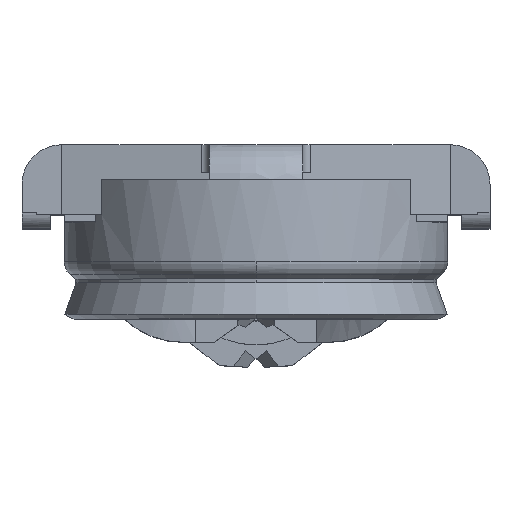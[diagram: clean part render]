
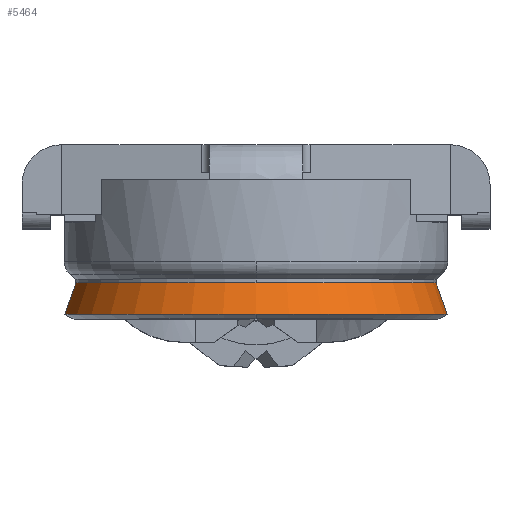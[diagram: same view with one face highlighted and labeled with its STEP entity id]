
A CAD part, top view. The second image highlights one B-rep face of the part: STEP entity #5464.
In plain terms, the highlighted conical face has half-angle 19.574 degrees and reference radius 0.77 mm.
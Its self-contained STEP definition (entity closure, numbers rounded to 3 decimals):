
#60 = VERTEX_POINT ( 'NONE', #4636 ) ;
#178 = DIRECTION ( 'NONE',  ( 0., 1., 0. ) ) ;
#679 = AXIS2_PLACEMENT_3D ( 'NONE', #6384, #178, #7434 ) ;
#731 = EDGE_CURVE ( 'NONE', #2074, #9748, #10896, .T. ) ;
#1073 = VECTOR ( 'NONE', #3360, 1000. ) ;
#1281 = DIRECTION ( 'NONE',  ( 0., -1., 0. ) ) ;
#1466 = CARTESIAN_POINT ( 'NONE',  ( 0., 0.36, 0.77 ) ) ;
#1475 = DIRECTION ( 'NONE',  ( 0.012, 0.942, 0.335 ) ) ;
#1708 = ORIENTED_EDGE ( 'NONE', *, *, #10105, .F. ) ;
#2074 = VERTEX_POINT ( 'NONE', #9650 ) ;
#2227 = EDGE_CURVE ( 'NONE', #12370, #7561, #9184, .T. ) ;
#2341 = CARTESIAN_POINT ( 'NONE',  ( 0., 0.36, 0. ) ) ;
#2976 = ORIENTED_EDGE ( 'NONE', *, *, #11398, .F. ) ;
#3360 = DIRECTION ( 'NONE',  ( 0.012, -0.942, -0.335 ) ) ;
#3582 = DIRECTION ( 'NONE',  ( 0., 1., 0. ) ) ;
#4174 = LINE ( 'NONE', #4425, #1073 ) ;
#4368 = DIRECTION ( 'NONE',  ( 0., 0., -1. ) ) ;
#4425 = CARTESIAN_POINT ( 'NONE',  ( 0., 2.526, 0. ) ) ;
#4598 = VERTEX_POINT ( 'NONE', #1466 ) ;
#4636 = CARTESIAN_POINT ( 'NONE',  ( 0.028, 0.36, -0.77 ) ) ;
#4722 = CARTESIAN_POINT ( 'NONE',  ( -0.028, 0.36, -0.77 ) ) ;
#4739 = ORIENTED_EDGE ( 'NONE', *, *, #9660, .F. ) ;
#4882 = DIRECTION ( 'NONE',  ( 0., 1., 0. ) ) ;
#5236 = AXIS2_PLACEMENT_3D ( 'NONE', #2341, #1281, #4368 ) ;
#5464 = ADVANCED_FACE ( 'NONE', ( #10086 ), #12578, .T. ) ;
#5470 = ORIENTED_EDGE ( 'NONE', *, *, #731, .T. ) ;
#5557 = CARTESIAN_POINT ( 'NONE',  ( 0.029, 0.225, -0.817 ) ) ;
#6063 = EDGE_LOOP ( 'NONE', ( #10677, #11711, #5470, #2976, #1708, #4739 ) ) ;
#6384 = CARTESIAN_POINT ( 'NONE',  ( 0., 0.36, 0. ) ) ;
#6393 = VECTOR ( 'NONE', #1475, 1000. ) ;
#6680 = AXIS2_PLACEMENT_3D ( 'NONE', #11138, #4882, #12225 ) ;
#6936 = DIRECTION ( 'NONE',  ( 0., 1., 0. ) ) ;
#7434 = DIRECTION ( 'NONE',  ( 0., 0., 1. ) ) ;
#7561 = VERTEX_POINT ( 'NONE', #4722 ) ;
#8939 = CIRCLE ( 'NONE', #679, 0.77 ) ;
#9184 = LINE ( 'NONE', #9711, #6393 ) ;
#9352 = EDGE_CURVE ( 'NONE', #12370, #2074, #11922, .T. ) ;
#9365 = CARTESIAN_POINT ( 'NONE',  ( -0.029, 0.225, -0.817 ) ) ;
#9402 = DIRECTION ( 'NONE',  ( 0., 0., 1. ) ) ;
#9650 = CARTESIAN_POINT ( 'NONE',  ( 0., 0.225, 0.818 ) ) ;
#9660 = EDGE_CURVE ( 'NONE', #7561, #4598, #8939, .T. ) ;
#9688 = AXIS2_PLACEMENT_3D ( 'NONE', #10800, #6936, #9402 ) ;
#9711 = CARTESIAN_POINT ( 'NONE',  ( 0., 2.526, 0. ) ) ;
#9748 = VERTEX_POINT ( 'NONE', #5557 ) ;
#9843 = CARTESIAN_POINT ( 'NONE',  ( 0., 0.225, 0. ) ) ;
#10086 = FACE_OUTER_BOUND ( 'NONE', #6063, .T. ) ;
#10105 = EDGE_CURVE ( 'NONE', #4598, #60, #10561, .T. ) ;
#10561 = CIRCLE ( 'NONE', #6680, 0.77 ) ;
#10677 = ORIENTED_EDGE ( 'NONE', *, *, #2227, .F. ) ;
#10800 = CARTESIAN_POINT ( 'NONE',  ( 0., 0.225, 0. ) ) ;
#10863 = DIRECTION ( 'NONE',  ( 0., 0., 1. ) ) ;
#10896 = CIRCLE ( 'NONE', #9688, 0.818 ) ;
#11138 = CARTESIAN_POINT ( 'NONE',  ( 0., 0.36, 0. ) ) ;
#11398 = EDGE_CURVE ( 'NONE', #60, #9748, #4174, .T. ) ;
#11711 = ORIENTED_EDGE ( 'NONE', *, *, #9352, .T. ) ;
#11922 = CIRCLE ( 'NONE', #12421, 0.818 ) ;
#12225 = DIRECTION ( 'NONE',  ( 0., 0., 1. ) ) ;
#12370 = VERTEX_POINT ( 'NONE', #9365 ) ;
#12421 = AXIS2_PLACEMENT_3D ( 'NONE', #9843, #3582, #10863 ) ;
#12578 = CONICAL_SURFACE ( 'NONE', #5236, 0.77, 0.342 ) ;
